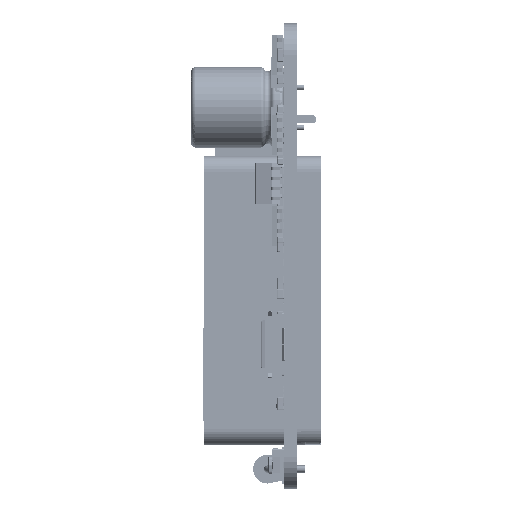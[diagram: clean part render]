
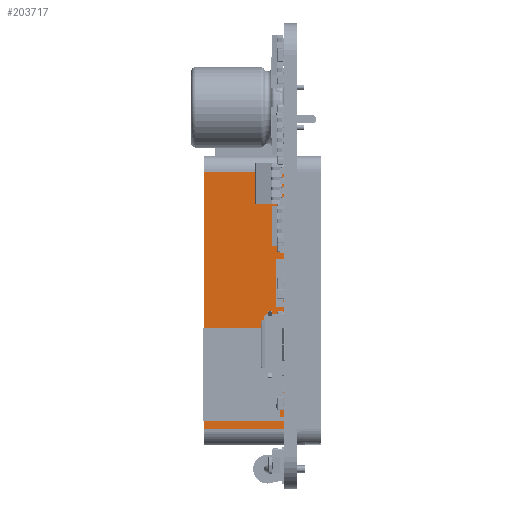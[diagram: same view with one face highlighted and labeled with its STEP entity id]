
A CAD part, left-side view. The second image highlights one B-rep face of the part: STEP entity #203717.
In plain terms, the highlighted planar face has unit normal (-1, 0, 0) as drawn and (0, -1, 0) by its records, which use the part's own axes.
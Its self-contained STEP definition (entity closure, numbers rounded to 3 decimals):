
#31185 = CARTESIAN_POINT ( 'NONE',  ( 111.652, -137.529, 10. ) ) ;
#31540 = DIRECTION ( 'NONE',  ( 1., 0., 0. ) ) ;
#31542 = VECTOR ( 'NONE', #31540, 1000. ) ;
#31543 = CARTESIAN_POINT ( 'NONE',  ( 145.652, -137.529, 10. ) ) ;
#31544 = LINE ( 'NONE', #31543, #31542 ) ;
#31891 = CARTESIAN_POINT ( 'NONE',  ( 143.652, -137.529, 10. ) ) ;
#34861 = PLANE ( 'NONE',  #34945 ) ;
#34933 = DIRECTION ( 'NONE',  ( 0., 0., 1. ) ) ;
#34935 = DIRECTION ( 'NONE',  ( 0., 1., 0. ) ) ;
#34937 = CARTESIAN_POINT ( 'NONE',  ( 145.652, -137.529, 10. ) ) ;
#34945 = AXIS2_PLACEMENT_3D ( 'NONE', #34937, #34935, #34933 ) ;
#34947 = FACE_OUTER_BOUND ( 'NONE', #203722, .T. ) ;
#34997 = CARTESIAN_POINT ( 'NONE',  ( 111.652, -137.529, 0. ) ) ;
#34998 = DIRECTION ( 'NONE',  ( 0., 0., -1. ) ) ;
#34999 = VECTOR ( 'NONE', #34998, 1000. ) ;
#35000 = CARTESIAN_POINT ( 'NONE',  ( 111.652, -137.529, 10. ) ) ;
#35002 = LINE ( 'NONE', #35000, #34999 ) ;
#35344 = CARTESIAN_POINT ( 'NONE',  ( 143.652, -137.529, 0. ) ) ;
#35346 = DIRECTION ( 'NONE',  ( 1., 0., 0. ) ) ;
#35347 = VECTOR ( 'NONE', #35346, 1000. ) ;
#35350 = CARTESIAN_POINT ( 'NONE',  ( 145.652, -137.529, 0. ) ) ;
#35357 = LINE ( 'NONE', #35350, #35347 ) ;
#35456 = DIRECTION ( 'NONE',  ( 0., 0., 1. ) ) ;
#35458 = VECTOR ( 'NONE', #35456, 1000. ) ;
#35460 = CARTESIAN_POINT ( 'NONE',  ( 143.652, -137.529, 10. ) ) ;
#35462 = LINE ( 'NONE', #35460, #35458 ) ;
#201610 = VERTEX_POINT ( 'NONE', #31185 ) ;
#201737 = EDGE_CURVE ( 'NONE', #201610, #201923, #31544, .T. ) ;
#201923 = VERTEX_POINT ( 'NONE', #31891 ) ;
#203717 = ADVANCED_FACE ( 'NONE', ( #34947 ), #34861, .F. ) ;
#203722 = EDGE_LOOP ( 'NONE', ( #203738, #203743, #203965, #203984 ) ) ;
#203738 = ORIENTED_EDGE ( 'NONE', *, *, #201737, .F. ) ;
#203743 = ORIENTED_EDGE ( 'NONE', *, *, #203748, .T. ) ;
#203748 = EDGE_CURVE ( 'NONE', #201610, #203750, #35002, .T. ) ;
#203750 = VERTEX_POINT ( 'NONE', #34997 ) ;
#203965 = ORIENTED_EDGE ( 'NONE', *, *, #203977, .T. ) ;
#203977 = EDGE_CURVE ( 'NONE', #203750, #203980, #35357, .T. ) ;
#203980 = VERTEX_POINT ( 'NONE', #35344 ) ;
#203984 = ORIENTED_EDGE ( 'NONE', *, *, #203992, .T. ) ;
#203992 = EDGE_CURVE ( 'NONE', #203980, #201923, #35462, .T. ) ;
